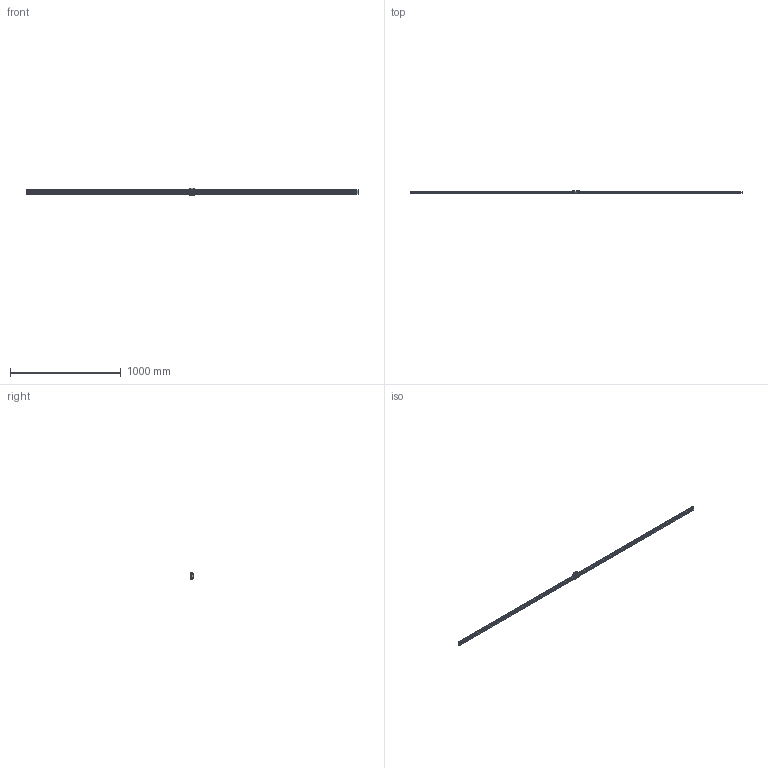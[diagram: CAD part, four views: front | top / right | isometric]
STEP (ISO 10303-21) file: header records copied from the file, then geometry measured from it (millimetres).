
FILE_DESCRIPTION(/* description */ ('STEP AP214'),/* implementation_level */ '2;1');
FILE_NAME(/* name */ 'SHW21CA1SS-3000LT_G25_0_Without_grease_nipple_1470-5_0_0_01',/* time_stamp */ '2024-02-12T10:04:17+01:00',/* author */ ('License CC BY-ND 4.0'),/* organization */ ('CADENAS'),/* preprocessor_version */ 'ST-DEVELOPER v19.3',/* originating_system */ 'PARTsolutions',/* authorisation */ ' ');
FILE_SCHEMA (('AUTOMOTIVE_DESIGN {1 0 10303 214 3 1 1}'));
Length unit declared in the file: millimetre
Products named in the file (4): SHW21CA1SS-3000LT_G25_0_Without_grease_nipple_1470-5_0_0_01; SHW21CA300025 Track; SHW21CASS1 Slide12-50; -SHW_grease_nipple_joint
Assembly tree (3 placements, depth 2):
  SHW21CA1SS-3000LT_G25_0_Without_grease_nipple_1470-5_0_0_01
    SHW21CA300025 Track
    SHW21CASS1 Slide12-50
    -SHW_grease_nipple_joint
Bounding box: 3000 x 21 x 68 mm (x, y, z)
Volume: 1150418.2 mm3; surface area: 331886.3 mm2
Topology: 2 solids, 2 shells, 564 faces, 1303 edges, 867 vertices
Faces by surface type: cylinder 296, plane 256, cone 12
Full cylindrical faces by diameter (mm): 3 x2, 4.4 x6, 4.5 x120, 7.5 x120
Entity records: 15493 total; most frequent: DIRECTION 2803, CARTESIAN_POINT 2474, ORIENTED_EDGE 2070, AXIS2_PLACEMENT_3D 1204, EDGE_LOOP 1199, FACE_BOUND 1199, EDGE_CURVE 1035, VERTEX_POINT 858
